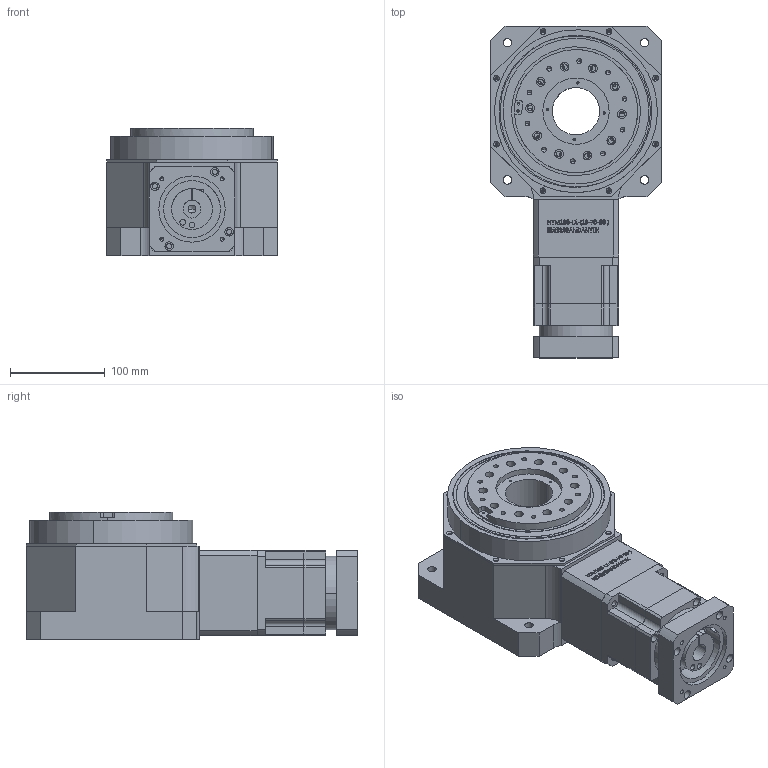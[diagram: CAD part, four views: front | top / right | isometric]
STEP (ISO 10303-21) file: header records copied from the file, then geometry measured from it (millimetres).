
FILE_DESCRIPTION (( 'STEP AP203' ), '1' );
FILE_NAME ('HTM180-L1-19-70-90.STEP', '2024-07-26T06:54:34', ( 'Windows User' ), ( 'P R C' ), 'SwSTEP 2.0', 'SolidWorks 2016', '' );
FILE_SCHEMA (( 'CONFIG_CONTROL_DESIGN' ));
Length unit declared in the file: millimetre
Products named in the file (14): 訇喘綴楊擘; 奻裔啣; PAG90-帣釱; 80-褲极; 油封範本 TC 72x50x8_TC-34.9-55-7; 80-湮喘謫; 内六角圆柱头螺钉M6×16; 80-怀堤粣; A倰す瑩 6x6x32; 80-蚐猾裔; PAG90-L1-()-P1(19-70-M5-90LR48); 80-粣創; HTM180-L1-19-70-90; 80-油封（130-160-12）
Assembly tree (13 placements, depth 3):
  HTM180-L1-19-70-90
    80-褲极
    80-湮喘謫
    80-怀堤粣
    80-蚐猾裔
    80-粣創
    80-油封（130-160-12）
    訇喘綴楊擘
    PAG90-L1-()-P1(19-70-M5-90LR48)
      奻裔啣
      PAG90-帣釱
      油封範本 TC 72x50x8_TC-34.9-55-7
      内六角圆柱头螺钉M6×16
      A倰す瑩 6x6x32
Bounding box: 180.01 x 350.5 x 135 mm (x, y, z)
Volume: 3832631.1 mm3; surface area: 566613.6 mm2
Topology: 25 solids, 25 shells, 1383 faces, 3582 edges, 2277 vertices
Faces by surface type: plane 569, cylinder 484, cone 158, bspline 152, torus 20
Entity records: 50803 total; most frequent: CARTESIAN_POINT 15834, ORIENTED_EDGE 6932, DIRECTION 6774, EDGE_CURVE 3466, AXIS2_PLACEMENT_3D 2429, VERTEX_POINT 2277, LINE 1916, VECTOR 1916
